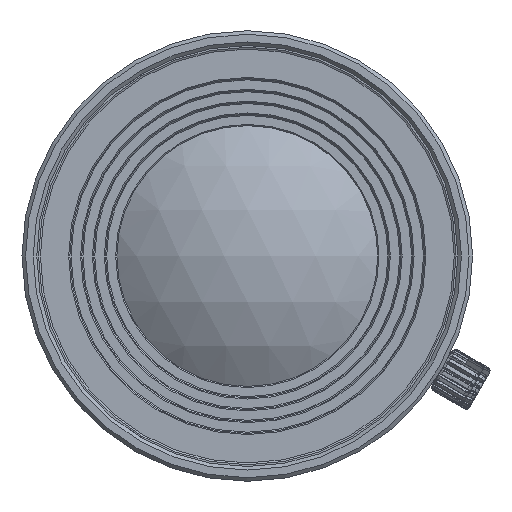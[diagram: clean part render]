
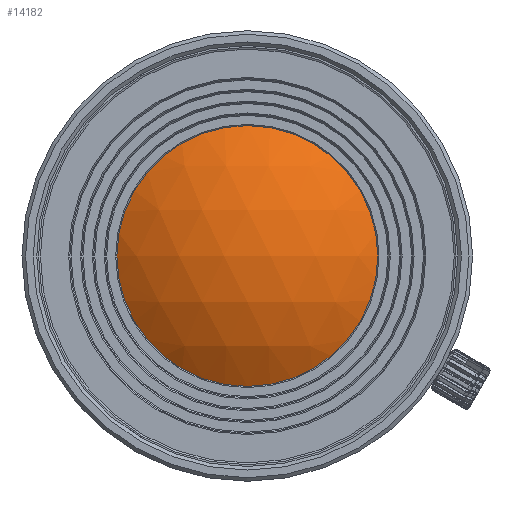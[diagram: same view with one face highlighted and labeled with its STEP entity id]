
A CAD part, left-side view. The second image highlights one B-rep face of the part: STEP entity #14182.
In plain terms, the highlighted spherical face has radius 18.994 mm.
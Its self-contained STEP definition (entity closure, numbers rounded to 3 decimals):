
#13=SPHERICAL_SURFACE('',#15498,18.994);
#2948=FACE_OUTER_BOUND('',#3818,.T.);
#3818=EDGE_LOOP('',(#12244));
#4817=CIRCLE('',#15497,11.);
#6120=VERTEX_POINT('',#67561);
#8185=EDGE_CURVE('',#6120,#6120,#4817,.T.);
#12244=ORIENTED_EDGE('',*,*,#8185,.T.);
#14182=ADVANCED_FACE('',(#2948),#13,.T.);
#15497=AXIS2_PLACEMENT_3D('',#67562,#18409,#18410);
#15498=AXIS2_PLACEMENT_3D('',#67563,#18411,#18412);
#18409=DIRECTION('center_axis',(-1.,0.,0.));
#18410=DIRECTION('ref_axis',(0.,0.,-1.));
#18411=DIRECTION('center_axis',(0.,0.,1.));
#18412=DIRECTION('ref_axis',(-1.,0.,0.));
#67561=CARTESIAN_POINT('',(-36.884,-11.,0.));
#67562=CARTESIAN_POINT('Origin',(-36.884,0.,0.));
#67563=CARTESIAN_POINT('Origin',(-21.399,0.,0.));
